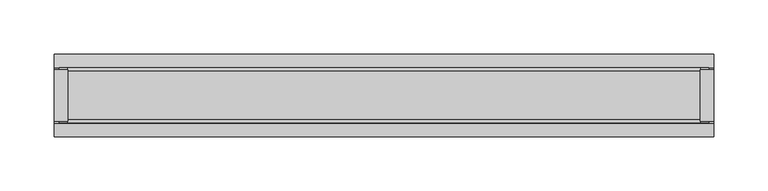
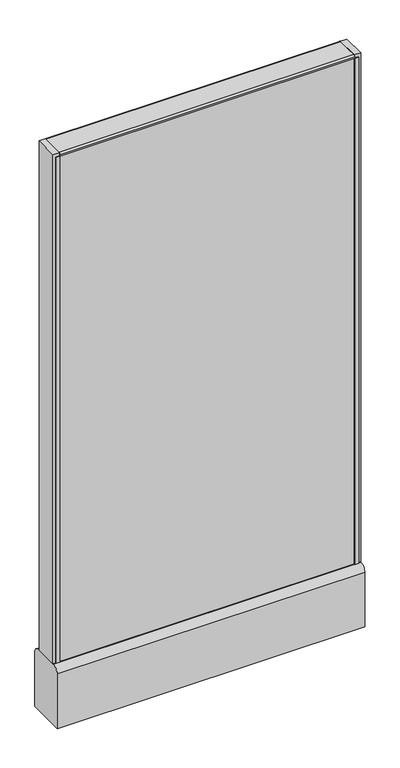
"""IFC4 building model written with IfcOpenShell, lengths in millimetres: furniture geometry."""

from ifc_helpers import new_model, si_unit, point, frame, frame_2d, origin, place, context, project, spatial, polyline, circle_curve, trimmed, segment, composite_curve, outline, extrude, source, transform, mapped, element, save
from ifc_brep_helpers import plane_surface, cylinder_surface, advanced_brep


def furniture_22e63fa4(model_context):
    return source(origin(), model_context, "Body", "SolidModel", [
        advanced_brep(
        [(247.65, 0.0, 0.0), (273.05, 0.0, 0.0), (260.35, 0.0, 0.0), (247.65, 0.0, 4.7625), (273.05, 0.0, 4.7625), (254.0, 0.0, 4.7625), (266.7, 0.0, 4.7625), (254.0, 0.0, 111.125), (266.7, 0.0, 111.125), (260.35, 0.0, 111.125)],
        [
            (0, 1, circle_curve(frame((260.35, 0.0, 0.0), z_axis=(0.0, 0.0, -1.0), x_axis=(1.0, 0.0, 0.0)), 12.7)),
            (1, 2),
            (2, 0),
            (1, 0, circle_curve(frame((260.35, 0.0, 0.0), z_axis=(0.0, 0.0, -1.0), x_axis=(1.0, 0.0, 0.0)), 12.7)),
            (3, 4, circle_curve(frame((260.35, 0.0, 4.7625), z_axis=(0.0, 0.0, -1.0), x_axis=(1.0, 0.0, 0.0)), 12.7)),
            (4, 1),
            (0, 3),
            (4, 3, circle_curve(frame((260.35, 0.0, 4.7625), z_axis=(0.0, 0.0, -1.0), x_axis=(1.0, 0.0, 0.0)), 12.7)),
            (5, 6, circle_curve(frame((260.35, 0.0, 4.7625), z_axis=(0.0, 0.0, -1.0), x_axis=(1.0, 0.0, 0.0)), 6.35)),
            (6, 4),
            (3, 5),
            (6, 5, circle_curve(frame((260.35, 0.0, 4.7625), z_axis=(0.0, 0.0, -1.0), x_axis=(1.0, 0.0, 0.0)), 6.35)),
            (7, 8, circle_curve(frame((260.35, 0.0, 111.125), z_axis=(0.0, 0.0, -1.0), x_axis=(1.0, 0.0, 0.0)), 6.35)),
            (8, 6),
            (5, 7),
            (8, 7, circle_curve(frame((260.35, 0.0, 111.125), z_axis=(0.0, 0.0, -1.0), x_axis=(1.0, 0.0, 0.0)), 6.35)),
            (9, 8),
            (7, 9),
        ],
        [
            plane_surface(frame((260.35, 0.0, 0.0), z_axis=(0.0, 0.0, -1.0), x_axis=(1.0, 0.0, 0.0))),
            cylinder_surface(frame((260.35, 0.0, 114.882153), z_axis=(0.0, 0.0, 1.0), x_axis=(1.0, 0.0, 0.0)), 12.7),
            plane_surface(frame((260.35, 0.0, 4.7625), z_axis=(0.0, 0.0, 1.0), x_axis=(1.0, 0.0, 0.0))),
            cylinder_surface(frame((260.35, 0.0, 114.882153), z_axis=(0.0, 0.0, 1.0), x_axis=(1.0, 0.0, 0.0)), 6.35),
            plane_surface(frame((260.35, 0.0, 111.125), z_axis=(0.0, 0.0, 1.0), x_axis=(1.0, 0.0, 0.0))),
        ],
        [
            (0, [[1, 2, 3]]),
            (0, [[4, -3, -2]]),
            (1, [[5, 6, -1, 7]]),
            (1, [[8, -7, -4, -6]]),
            (2, [[9, 10, -5, 11]]),
            (2, [[12, -11, -8, -10]]),
            (3, [[13, 14, -9, 15]]),
            (3, [[16, -15, -12, -14]]),
            (4, [[17, -13, 18]]),
            (4, [[-18, -16, -17]]),
        ],
    ),
        advanced_brep(
        [(-273.05, 0.0, 4.7625), (-247.65, 0.0, 4.7625), (-247.65, 0.0, 0.0), (-273.05, 0.0, 0.0), (-266.7, 0.0, 4.7625), (-254.0, 0.0, 4.7625), (-266.7, 0.0, 111.125), (-254.0, 0.0, 111.125), (-260.35, 0.0, 111.125), (-260.35, 0.0, 0.0)],
        [
            (0, 1, circle_curve(frame((-260.35, 0.0, 4.7625), z_axis=(0.0, 0.0, -1.0), x_axis=(1.0, 0.0, 0.0)), 12.7)),
            (1, 2),
            (2, 3, circle_curve(frame((-260.35, 0.0, 0.0), z_axis=(0.0, 0.0, 1.0), x_axis=(1.0, 0.0, 0.0)), 12.7)),
            (3, 0),
            (1, 0, circle_curve(frame((-260.35, 0.0, 4.7625), z_axis=(0.0, 0.0, -1.0), x_axis=(1.0, 0.0, 0.0)), 12.7)),
            (3, 2, circle_curve(frame((-260.35, 0.0, 0.0), z_axis=(0.0, 0.0, 1.0), x_axis=(1.0, 0.0, 0.0)), 12.7)),
            (4, 5, circle_curve(frame((-260.35, 0.0, 4.7625), z_axis=(0.0, 0.0, -1.0), x_axis=(1.0, 0.0, 0.0)), 6.35)),
            (5, 1),
            (0, 4),
            (5, 4, circle_curve(frame((-260.35, 0.0, 4.7625), z_axis=(0.0, 0.0, -1.0), x_axis=(1.0, 0.0, 0.0)), 6.35)),
            (6, 7, circle_curve(frame((-260.35, 0.0, 111.125), z_axis=(0.0, 0.0, -1.0), x_axis=(1.0, 0.0, 0.0)), 6.35)),
            (7, 5),
            (4, 6),
            (7, 6, circle_curve(frame((-260.35, 0.0, 111.125), z_axis=(0.0, 0.0, -1.0), x_axis=(1.0, 0.0, 0.0)), 6.35)),
            (8, 7),
            (6, 8),
            (2, 9),
            (9, 3),
        ],
        [
            cylinder_surface(frame((-260.35, 0.0, 123.825), z_axis=(0.0, 0.0, 1.0), x_axis=(1.0, 0.0, 0.0)), 12.7),
            plane_surface(frame((-260.35, 0.0, 4.7625), z_axis=(0.0, 0.0, 1.0), x_axis=(1.0, 0.0, 0.0))),
            cylinder_surface(frame((-260.35, 0.0, 123.825), z_axis=(0.0, 0.0, 1.0), x_axis=(1.0, 0.0, 0.0)), 6.35),
            plane_surface(frame((-260.35, 0.0, 111.125), z_axis=(0.0, 0.0, 1.0), x_axis=(1.0, 0.0, 0.0))),
            plane_surface(frame((-260.35, 0.0, 0.0), z_axis=(0.0, 0.0, -1.0), x_axis=(1.0, 0.0, 0.0))),
        ],
        [
            (0, [[1, 2, 3, 4]]),
            (0, [[5, -4, 6, -2]]),
            (1, [[7, 8, -1, 9]]),
            (1, [[10, -9, -5, -8]]),
            (2, [[11, 12, -7, 13]]),
            (2, [[14, -13, -10, -12]]),
            (3, [[15, -11, 16]]),
            (3, [[-16, -14, -15]]),
            (4, [[-3, 17, 18]]),
            (4, [[-6, -18, -17]]),
        ],
    ),
        extrude(outline(polyline([(-304.8, 23.8125), (-292.1, 23.8125), (-292.1, -23.8125), (-304.8, -23.8125), (-304.8, 23.8125)])), frame((0.0, 0.0, 136.525), z_axis=(0.0, 0.0, 1.0), x_axis=(1.0, 0.0, 0.0)), (0.0, 0.0, 1.0), 1066.8),
        extrude(outline(polyline([(292.1, -23.8125), (292.1, 23.8125), (304.8, 23.8125), (304.8, -23.8125), (292.1, -23.8125)])), frame((0.0, 0.0, 136.525), z_axis=(0.0, 0.0, 1.0), x_axis=(1.0, 0.0, 0.0)), (0.0, 0.0, 1.0), 1066.8),
        extrude(outline(polyline([(-292.1, 25.4), (-292.1, 23.8125), (-300.0375, 23.8125), (-300.0375, 25.4), (-292.1, 25.4)])), frame((0.0, 0.0, 136.525), z_axis=(0.0, 0.0, 1.0), x_axis=(1.0, 0.0, 0.0)), (0.0, 0.0, 1.0), 1060.45),
        extrude(outline(polyline([(-292.1, -25.4), (-300.0375, -25.4), (-300.0375, -23.8125), (-292.1, -23.8125), (-292.1, -25.4)])), frame((0.0, 0.0, 136.525), z_axis=(0.0, 0.0, 1.0), x_axis=(1.0, 0.0, 0.0)), (0.0, 0.0, 1.0), 1060.45),
        extrude(outline(polyline([(300.0375, 23.8125), (292.1, 23.8125), (292.1, 25.4), (300.0375, 25.4), (300.0375, 23.8125)])), frame((0.0, 0.0, 136.525), z_axis=(0.0, 0.0, 1.0), x_axis=(1.0, 0.0, 0.0)), (0.0, 0.0, 1.0), 1060.45),
        extrude(outline(polyline([(292.1, -25.4), (292.1, -23.8125), (300.0375, -23.8125), (300.0375, -25.4), (292.1, -25.4)])), frame((0.0, 0.0, 136.525), z_axis=(0.0, 0.0, 1.0), x_axis=(1.0, 0.0, 0.0)), (0.0, 0.0, 1.0), 1060.45),
        extrude(outline(composite_curve([segment(trimmed(circle_curve(frame_2d((22.225, 1200.15)), 3.175), [point((22.225, 1203.325))], [point((25.4, 1200.15))], False, "CARTESIAN"), True, "CONTINUOUS"), segment(polyline([(25.4, 1200.15), (25.4, 1196.975), (-25.4, 1196.975), (-25.4, 1200.15)]), True, "CONTINUOUS"), segment(trimmed(circle_curve(frame_2d((-22.225, 1200.15)), 3.175), [point((-25.4, 1200.15))], [point((-22.225, 1203.325))], False, "CARTESIAN"), True, "CONTINUOUS"), segment(polyline([(-22.225, 1203.325), (22.225, 1203.325)]), True, "CONTINUOUS")], self_intersect=False)), frame((-292.1, 0.0, 0.0), z_axis=(1.0, 0.0, 0.0), x_axis=(0.0, 1.0, 0.0)), (0.0, 0.0, 1.0), 584.2),
        extrude(outline(composite_curve([segment(trimmed(circle_curve(frame_2d((25.4, 123.825)), 12.7), [point((25.4, 136.525))], [point((38.1, 123.825))], False, "CARTESIAN"), True, "CONTINUOUS"), segment(polyline([(38.1, 123.825), (38.1, 9.525), (-38.1, 9.525), (-38.1, 123.825)]), True, "CONTINUOUS"), segment(trimmed(circle_curve(frame_2d((-25.4, 123.825)), 12.7), [point((-38.1, 123.825))], [point((-25.4, 136.525))], False, "CARTESIAN"), True, "CONTINUOUS"), segment(polyline([(-25.4, 136.525), (25.4, 136.525)]), True, "CONTINUOUS")], self_intersect=False)), frame((-304.8, 0.0, 0.0), z_axis=(1.0, 0.0, 0.0), x_axis=(0.0, 1.0, 0.0)), (0.0, 0.0, 1.0), 609.6),
        extrude(outline(polyline([(292.1, 23.8125), (292.1, -23.8125), (-292.1, -23.8125), (-292.1, 23.8125), (292.1, 23.8125)])), frame((0.0, 0.0, 136.525), z_axis=(0.0, 0.0, 1.0), x_axis=(1.0, 0.0, 0.0)), (0.0, 0.0, 1.0), 1060.45),
    ])


if __name__ == "__main__":
    model = new_model("IFC4")
    model_context = context("Model", 3, world=origin())
    ifc_project = project(units=[si_unit("LENGTHUNIT", "METRE", prefix="MILLI")], contexts=[model_context])
    site = spatial("IfcSite", under=ifc_project)
    building = spatial("IfcBuilding", under=site)
    placement = place(None, origin())
    furniture_shape = furniture_22e63fa4(model_context)
    element("IfcFurniture", 1, ObjectType="HermanMiller_ActionOffice_A1110_Hard-SurfacedPanelStandardBase : 47\"H x 24\"W-N", at=placement, inside=building, context=model_context, shape_type="MappedRepresentation", body=[
        mapped(furniture_shape, transform((0.0, 0.0, 0.0), x_axis=(1.0, 0.0, 0.0), y_axis=(0.0, 1.0, 0.0), z_axis=(0.0, 0.0, 1.0))),
    ])
    save(model, "model.ifc")
